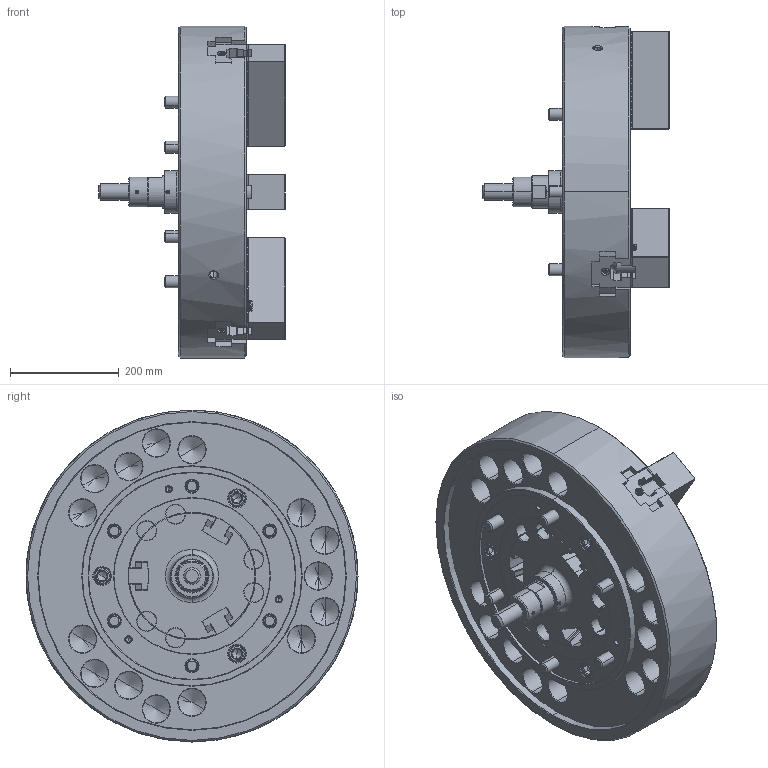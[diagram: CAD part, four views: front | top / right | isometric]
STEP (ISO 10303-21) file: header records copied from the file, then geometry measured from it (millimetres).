
FILE_DESCRIPTION (( 'STEP AP214' ), '1' );
FILE_NAME ('DT1_N-24_OUTSIDE_VIEW_OC.STEP', '2026-03-19T01:39:10', ( '' ), ( '' ), 'SwSTEP 2.0', 'SolidWorks 2022', '' );
FILE_SCHEMA (( 'AUTOMOTIVE_DESIGN' ));
Length unit declared in the file: millimetre
Products named in the file (11): DT1_N-24_SOFTJAW^DT1_N-24; Copy of 61P321208^DT1_N-24; DT1_N-24_BASE^DT1_N-24; DT1_N-24_DN^DT1_N-24; DT1_N-24_OUTSIDE_VIEW_OC; DT1_N-24_M22x120^DT1_N-24; DT1_N-24_TNUT^DT1_N-24; DT1_N-24_COVER^DT1_N-24; DT1_N-24_M6x12^DT1_N-24; DT1_N-24_DRAWSCREW^DT1_N-24; DT1_N-24_M20x60^DT1_N-24
Assembly tree (29 placements, depth 2):
  DT1_N-24_OUTSIDE_VIEW_OC
    DT1_N-24_SOFTJAW^DT1_N-24  x3
    DT1_N-24_TNUT^DT1_N-24  x6
    DT1_N-24_COVER^DT1_N-24
    DT1_N-24_DRAWSCREW^DT1_N-24
    Copy of 61P321208^DT1_N-24
    DT1_N-24_DN^DT1_N-24
    DT1_N-24_BASE^DT1_N-24
    DT1_N-24_M6x12^DT1_N-24  x3
    DT1_N-24_M22x120^DT1_N-24  x6
    DT1_N-24_M20x60^DT1_N-24  x6
Bounding box: 342 x 610 x 610 mm (x, y, z)
Volume: 33940356.9 mm3; surface area: 1896371.9 mm2
Topology: 29 solids, 35 shells, 8012 faces, 22813 edges, 14992 vertices
Faces by surface type: plane 5067, cylinder 1519, bspline 836, cone 510, torus 74, sphere 6
Entity records: 224161 total; most frequent: CARTESIAN_POINT 71037, ORIENTED_EDGE 34766, DIRECTION 27071, EDGE_CURVE 17383, VECTOR 13049, LINE 13049, VERTEX_POINT 11466, AXIS2_PLACEMENT_3D 7011
